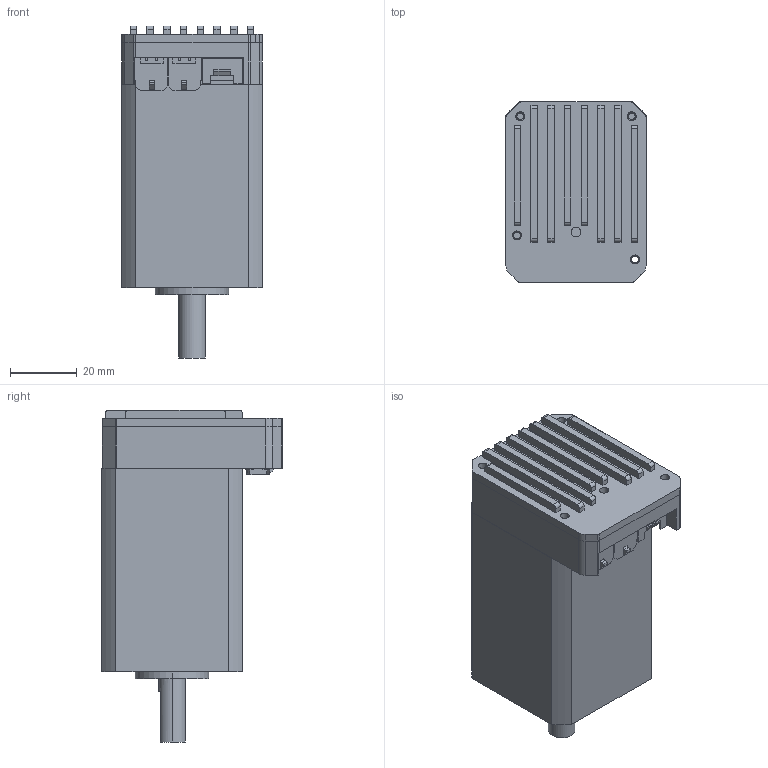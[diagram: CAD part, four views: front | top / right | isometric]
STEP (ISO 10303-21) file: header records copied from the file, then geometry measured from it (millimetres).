
FILE_DESCRIPTION (( 'STEP AP214' ), '1' );
FILE_NAME ('4261_FULL_STEP.STEP', '2023-04-05T07:28:19', ( 'shaun' ), ( '' ), 'SwSTEP 2.0', 'SolidWorks 2020', '' );
FILE_SCHEMA (( 'AUTOMOTIVE_DESIGN' ));
Length unit declared in the file: millimetre
Products named in the file (5): 4261_FULL_STEP; 4261_BODY; 42_F_UPPER_20230305; 42_PCB; 42_F_LOWER_20230305
Assembly tree (4 placements, depth 2):
  4261_FULL_STEP
    42_F_LOWER_20230305
    42_F_UPPER_20230305
    42_PCB
    4261_BODY
Bounding box: 42.2 x 54.1 x 99.5 mm (x, y, z)
Volume: 125599.6 mm3; surface area: 43757.7 mm2
Topology: 9 solids, 9 shells, 1114 faces, 2911 edges, 1876 vertices
Faces by surface type: plane 873, cylinder 233, cone 8
Entity records: 43066 total; most frequent: CARTESIAN_POINT 5908, ORIENTED_EDGE 5822, DIRECTION 5630, EDGE_CURVE 2911, LINE 2434, VECTOR 2434, VERTEX_POINT 1876, AXIS2_PLACEMENT_3D 1598
